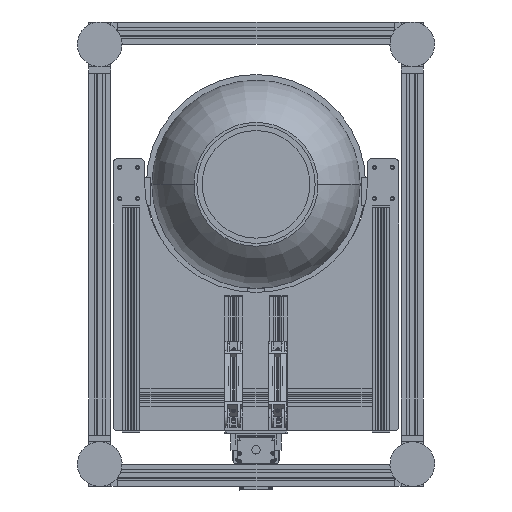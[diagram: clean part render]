
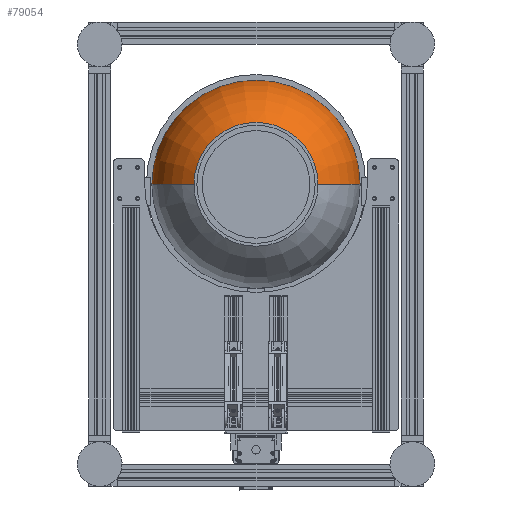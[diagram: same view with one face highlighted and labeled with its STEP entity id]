
A CAD part, front view. The second image highlights one B-rep face of the part: STEP entity #79054.
In plain terms, the highlighted toroidal (fillet/blend) face has major radius 12.482 mm and minor radius 220.652 mm.
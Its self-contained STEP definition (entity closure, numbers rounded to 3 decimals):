
#4476 = CARTESIAN_POINT ( 'NONE',  ( 138.718, 34.925, 0. ) ) ;
#7862 = DIRECTION ( 'NONE',  ( 0., -1., 0. ) ) ;
#10111 = DIRECTION ( 'NONE',  ( 1., 0., 0. ) ) ;
#16200 = CIRCLE ( 'NONE', #119316, 138.718 ) ;
#17363 = CARTESIAN_POINT ( 'NONE',  ( -12.482, 215.9, 0. ) ) ;
#18076 = VERTEX_POINT ( 'NONE', #4476 ) ;
#20011 = ORIENTED_EDGE ( 'NONE', *, *, #22504, .F. ) ;
#22504 = EDGE_CURVE ( 'NONE', #61147, #18076, #83106, .T. ) ;
#26805 = FACE_OUTER_BOUND ( 'NONE', #120820, .T. ) ;
#34866 = CARTESIAN_POINT ( 'NONE',  ( 12.482, 215.9, 0. ) ) ;
#49303 = AXIS2_PLACEMENT_3D ( 'NONE', #100259, #7862, #136240 ) ;
#51932 = DIRECTION ( 'NONE',  ( 1., 0., 0. ) ) ;
#56374 = CIRCLE ( 'NONE', #92244, 220.652 ) ;
#56756 = DIRECTION ( 'NONE',  ( 0., -1., 0. ) ) ;
#61147 = VERTEX_POINT ( 'NONE', #79044 ) ;
#63218 = DIRECTION ( 'NONE',  ( 0., 0., 1. ) ) ;
#65133 = CARTESIAN_POINT ( 'NONE',  ( -138.718, 34.925, 0. ) ) ;
#65149 = DIRECTION ( 'NONE',  ( 0., -1., 0. ) ) ;
#66315 = AXIS2_PLACEMENT_3D ( 'NONE', #34866, #114588, #125797 ) ;
#76939 = CARTESIAN_POINT ( 'NONE',  ( -233.135, 215.9, 0. ) ) ;
#77888 = DIRECTION ( 'NONE',  ( 1., 0., 0. ) ) ;
#79044 = CARTESIAN_POINT ( 'NONE',  ( 233.135, 215.9, 0. ) ) ;
#79054 = ADVANCED_FACE ( 'NONE', ( #26805 ), #110625, .T. ) ;
#83106 = CIRCLE ( 'NONE', #66315, 220.652 ) ;
#85511 = VERTEX_POINT ( 'NONE', #76939 ) ;
#91783 = ORIENTED_EDGE ( 'NONE', *, *, #124529, .T. ) ;
#92244 = AXIS2_PLACEMENT_3D ( 'NONE', #17363, #63218, #51932 ) ;
#92731 = CARTESIAN_POINT ( 'NONE',  ( 0., 34.925, 0. ) ) ;
#94884 = EDGE_CURVE ( 'NONE', #61147, #85511, #102053, .T. ) ;
#96684 = VERTEX_POINT ( 'NONE', #65133 ) ;
#100259 = CARTESIAN_POINT ( 'NONE',  ( 0., 215.9, 0. ) ) ;
#101806 = CARTESIAN_POINT ( 'NONE',  ( 0., 215.9, 0. ) ) ;
#102053 = CIRCLE ( 'NONE', #49303, 233.135 ) ;
#106666 = ORIENTED_EDGE ( 'NONE', *, *, #130411, .F. ) ;
#107317 = ORIENTED_EDGE ( 'NONE', *, *, #94884, .T. ) ;
#110625 = TOROIDAL_SURFACE ( 'NONE', #146399, 12.482, 220.652 ) ;
#114588 = DIRECTION ( 'NONE',  ( 0., 0., -1. ) ) ;
#119316 = AXIS2_PLACEMENT_3D ( 'NONE', #92731, #56756, #10111 ) ;
#120820 = EDGE_LOOP ( 'NONE', ( #107317, #91783, #106666, #20011 ) ) ;
#124529 = EDGE_CURVE ( 'NONE', #85511, #96684, #56374, .T. ) ;
#125797 = DIRECTION ( 'NONE',  ( 0., 1., 0. ) ) ;
#130411 = EDGE_CURVE ( 'NONE', #18076, #96684, #16200, .T. ) ;
#136240 = DIRECTION ( 'NONE',  ( 1., 0., 0. ) ) ;
#146399 = AXIS2_PLACEMENT_3D ( 'NONE', #101806, #65149, #77888 ) ;
